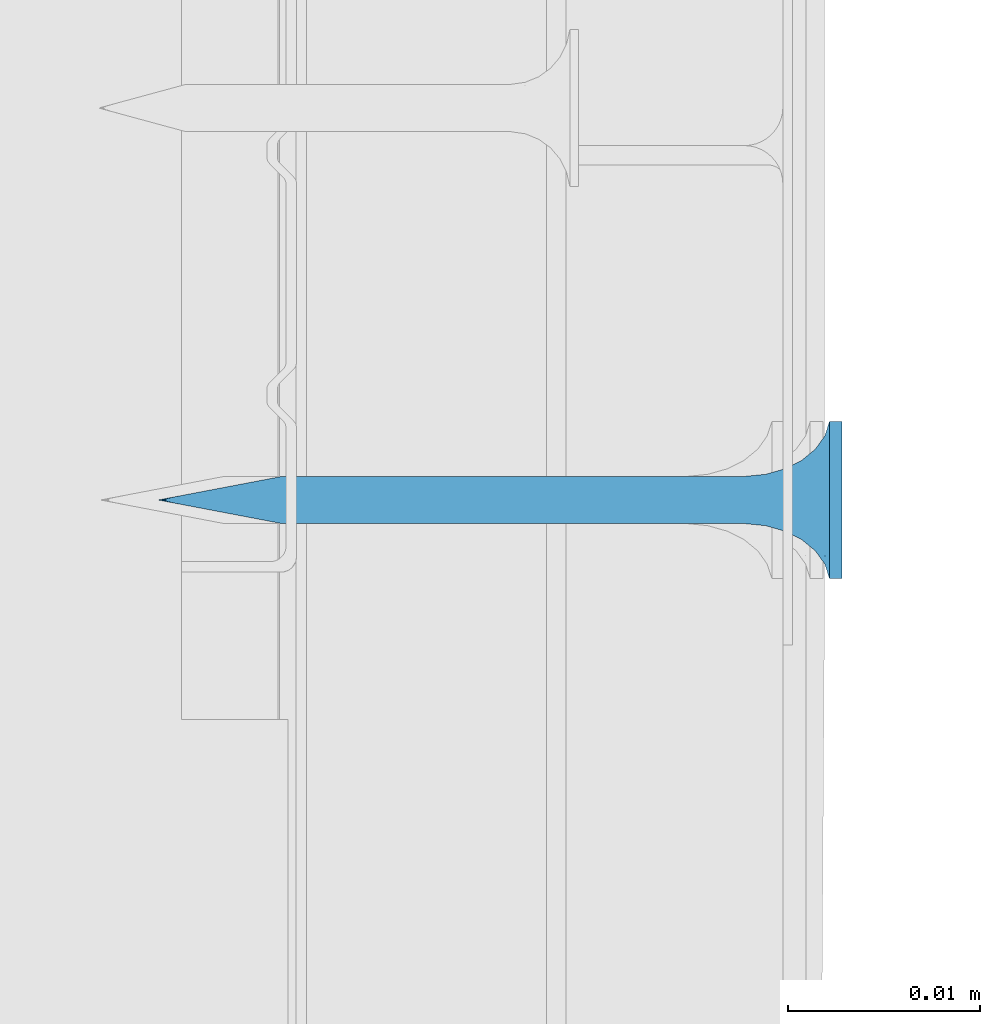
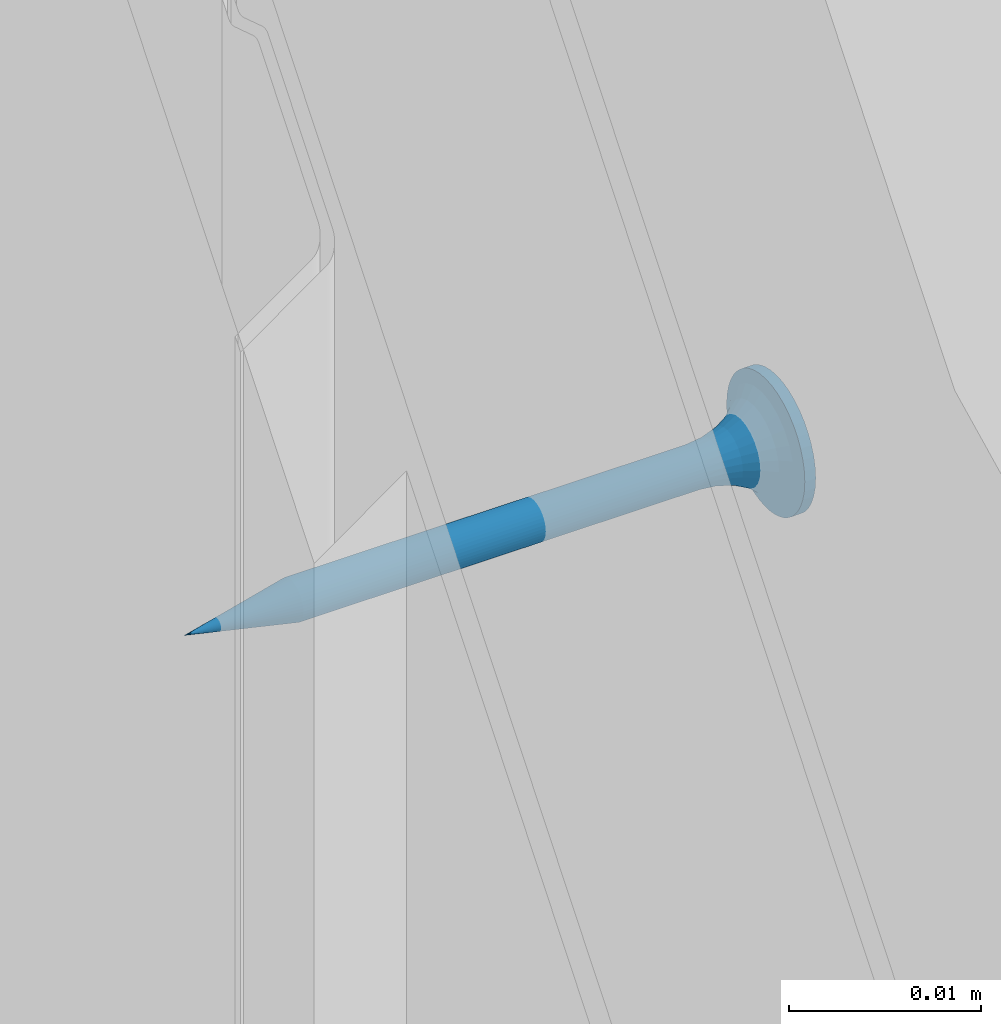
# One storey, part 51 of 89: 1 wall.
"""IFC2X3 building model written with IfcOpenShell, lengths in millimetres."""

from ifc_helpers import new_model, entity, si_unit, converted_unit, direction, frame, origin, origin_with_axes, place, context, project, spatial, faceted_brep, element, save


model = new_model("IFC2X3")

# Units and contexts
model_context = context("Model", 3, precision=1e-05, world=origin(), true_north=direction((0.0, 1.0, 0.0)))
ifc_project = project(units=[si_unit("LENGTHUNIT", "METRE", prefix="MILLI"), si_unit("AREAUNIT", "SQUARE_METRE"), si_unit("VOLUMEUNIT", "CUBIC_METRE"), converted_unit("PLANEANGLEUNIT", "DEGREE", entity("IfcPlaneAngleMeasure", 0.01745), si_unit("PLANEANGLEUNIT", "RADIAN"), dimensions=[0, 0, 0, 0, 0, 0, 0]), si_unit("SOLIDANGLEUNIT", "STERADIAN"), si_unit("MASSUNIT", "GRAM"), si_unit("TIMEUNIT", "SECOND"), si_unit("THERMODYNAMICTEMPERATUREUNIT", "DEGREE_CELSIUS"), si_unit("LUMINOUSINTENSITYUNIT", "LUMEN")], contexts=[model_context])

# Site, building, storey
site_placement = place(None, origin_with_axes())
site = spatial("IfcSite", under=ifc_project, at=site_placement, Name="Default Site", CompositionType="ELEMENT")
building_placement = place(site_placement, origin_with_axes())
building = spatial("IfcBuilding", under=site, at=building_placement, Name="Default Building", CompositionType="ELEMENT")
storey_placement = place(building_placement, origin_with_axes())
storey = spatial("IfcBuildingStorey", under=building, at=storey_placement, Name="Default Building Storey", CompositionType="ELEMENT", Elevation=0.0)

# Wall
wall_placement = place(storey_placement, frame((-1963.90239238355, 1534.934940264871, 176.8420414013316), z_axis=(0.0, 0.0, 1.0), x_axis=(3.748251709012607e-13, 1.0, 0.0)))
element("IfcWall", 1, at=wall_placement, inside=storey, Name="Wkręt RIGIPS TN 35", context=model_context, shape_type="Brep", body=[
    faceted_brep([(-138.5557071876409, -4828.206294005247, 555.2413100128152), (-138.5557071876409, -4804.093757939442, 555.2413100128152), (-138.6296059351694, -4804.093757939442, 555.4197173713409), (-138.6296059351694, -4828.206294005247, 555.4197173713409), (-138.329396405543, -4828.206294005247, 554.9298199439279), (-138.329396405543, -4804.093757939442, 554.9298199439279), (-138.4548091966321, -4804.093757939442, 555.0766594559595), (-138.4548091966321, -4828.206294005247, 555.0766594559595), (-137.0789337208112, -4828.206294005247, 556.9703895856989), (-137.0789337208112, -4804.093757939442, 556.9703895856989), (-136.9005263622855, -4804.093757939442, 556.8964908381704), (-136.9005263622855, -4828.206294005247, 556.8964908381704), (-138.6296059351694, -4804.093757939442, 556.1802826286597), (-138.6296059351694, -4828.206294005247, 556.1802826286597), (-138.6746858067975, -4828.206294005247, 555.9925114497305), (-138.6746858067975, -4804.093757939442, 555.9925114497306), (-138.0179063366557, -4828.206294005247, 554.7035091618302), (-138.0179063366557, -4804.093757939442, 554.7035091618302), (-138.1825568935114, -4804.093757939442, 554.8044071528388), (-138.1825568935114, -4828.206294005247, 554.8044071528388), (-137.83949897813, -4828.206294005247, 554.6296104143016), (-137.83949897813, -4804.093757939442, 554.6296104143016), (-137.4592163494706, -4804.093757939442, 554.5693795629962), (-137.4592163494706, -4828.206294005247, 554.5693795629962), (-137.2667048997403, -4828.206294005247, 554.5845305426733), (-137.2667048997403, -4804.093757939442, 554.5845305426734), (-136.9005263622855, -4804.093757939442, 554.7035091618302), (-136.9005263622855, -4828.206294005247, 554.7035091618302), (-136.7358758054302, -4828.206294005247, 554.8044071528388), (-136.7358758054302, -4804.093757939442, 554.8044071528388), (-138.0179063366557, -4828.206294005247, 556.8964908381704), (-138.0179063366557, -4804.093757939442, 556.8964908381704), (-137.83949897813, -4804.093757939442, 556.9703895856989), (-137.83949897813, -4828.206294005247, 556.9703895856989), (-136.3627255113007, -4828.206294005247, 556.3586899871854), (-136.3627255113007, -4804.093757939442, 556.3586899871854), (-136.2888267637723, -4804.093757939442, 556.1802826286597), (-136.2888267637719, -4828.206294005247, 556.1802826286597), (-138.329396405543, -4828.206294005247, 556.6701800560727), (-138.329396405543, -4804.093757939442, 556.6701800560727), (-138.1825568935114, -4804.093757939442, 556.7955928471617), (-138.1825568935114, -4828.206294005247, 556.7955928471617), (-138.6746858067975, -4804.093757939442, 555.60748855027), (-138.6746858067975, -4828.206294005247, 555.60748855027), (-137.2667048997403, -4828.206294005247, 557.0154694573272), (-137.2667048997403, -4804.093757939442, 557.0154694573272), (-136.2888267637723, -4804.093757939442, 555.4197173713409), (-136.2888267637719, -4828.206294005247, 555.4197173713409), (-136.2437468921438, -4828.206294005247, 555.60748855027), (-136.2437468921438, -4804.093757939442, 555.60748855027), (-136.5890362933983, -4828.206294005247, 554.9298199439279), (-136.5890362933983, -4804.093757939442, 554.9298199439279), (-137.651727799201, -4828.206294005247, 554.5845305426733), (-137.651727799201, -4804.093757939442, 554.5845305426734), (-136.4636235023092, -4828.206294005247, 555.0766594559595), (-136.4636235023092, -4804.093757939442, 555.0766594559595), (-136.7358758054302, -4804.093757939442, 556.7955928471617), (-136.7358758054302, -4828.206294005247, 556.7955928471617), (-136.3627255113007, -4804.093757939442, 555.2413100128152), (-136.3627255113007, -4828.206294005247, 555.2413100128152), (-136.2437468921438, -4828.206294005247, 555.9925114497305), (-136.2437468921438, -4804.093757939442, 555.9925114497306), (-136.2285959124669, -4804.093757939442, 555.8000000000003), (-136.2285959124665, -4828.206294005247, 555.8000000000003), (-138.6898367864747, -4828.206294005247, 555.8000000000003), (-138.6898367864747, -4804.093757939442, 555.8000000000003), (-136.5890362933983, -4828.206294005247, 556.6701800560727), (-136.5890362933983, -4804.093757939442, 556.6701800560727), (-136.4636235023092, -4804.093757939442, 556.5233405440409), (-136.4636235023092, -4828.206294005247, 556.5233405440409), (-137.0789337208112, -4804.093757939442, 554.6296104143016), (-137.0789337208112, -4828.206294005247, 554.6296104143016), (-137.4592163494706, -4804.093757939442, 557.0306204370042), (-137.4592163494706, -4828.206294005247, 557.0306204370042), (-137.651727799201, -4828.206294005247, 557.0154694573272), (-137.651727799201, -4804.093757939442, 557.0154694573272), (-138.5557071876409, -4804.093757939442, 556.3586899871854), (-138.5557071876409, -4828.206294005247, 556.3586899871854), (-138.4548091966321, -4828.206294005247, 556.5233405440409), (-138.4548091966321, -4804.093757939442, 556.5233405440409), (-141.5377463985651, -4832.598051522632, 555.8000000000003), (-141.5377463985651, -4833.259713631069, 555.8000000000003), (-141.4875329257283, -4833.259713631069, 555.1619773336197), (-141.4875329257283, -4832.598051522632, 555.1619773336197), (-141.3381289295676, -4833.259713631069, 554.5396649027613), (-141.3381289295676, -4832.598051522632, 554.5396649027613), (-141.0932132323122, -4833.259713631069, 553.9483861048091), (-141.0932132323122, -4832.598051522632, 553.9483861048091), (-140.7588164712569, -4833.259713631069, 553.4027001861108), (-140.7588164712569, -4832.598051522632, 553.4027001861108), (-140.3431726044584, -4833.259713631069, 552.9160437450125), (-140.4541727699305, -4832.598051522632, 553.0314907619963), (-140.1080097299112, -4832.598051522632, 552.6986614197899), (-139.8565161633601, -4833.259713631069, 552.500399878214), (-139.7251262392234, -4832.598051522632, 552.4088262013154), (-139.3108302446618, -4833.259713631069, 552.1660031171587), (-139.3108302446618, -4832.598051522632, 552.1660031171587), (-138.8708651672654, -4832.598051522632, 551.9735584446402), (-138.7195514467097, -4833.259713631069, 551.9210874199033), (-138.4113302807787, -4832.598051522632, 551.8341600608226), (-137.9385961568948, -4832.598051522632, 551.7497404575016), (-138.0972390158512, -4833.259713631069, 551.7716834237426), (-137.4592163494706, -4833.259713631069, 551.7214699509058), (-137.4592163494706, -4832.598051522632, 551.7214699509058), (-136.8211936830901, -4833.259713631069, 551.7716834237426), (-136.8211936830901, -4832.598051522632, 551.7716834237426), (-136.1988812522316, -4833.259713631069, 551.9210874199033), (-136.1988812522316, -4832.598051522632, 551.9210874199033), (-135.6076024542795, -4833.259713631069, 552.1660031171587), (-135.6076024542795, -4832.598051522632, 552.1660031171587), (-135.0619165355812, -4833.259713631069, 552.500399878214), (-135.0619165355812, -4832.598051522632, 552.500399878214), (-134.5752600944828, -4833.259713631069, 552.9160437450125), (-134.5752600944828, -4832.598051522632, 552.9160437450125), (-134.1596162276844, -4833.259713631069, 553.4027001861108), (-134.1596162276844, -4832.598051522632, 553.4027001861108), (-133.8252194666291, -4833.259713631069, 553.9483861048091), (-133.8252194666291, -4832.598051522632, 553.9483861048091), (-133.5803037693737, -4833.259713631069, 554.5396649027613), (-133.5803037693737, -4832.598051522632, 554.5396649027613), (-133.430899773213, -4833.259713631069, 556.4380226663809), (-133.430899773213, -4832.598051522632, 556.4380226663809), (-133.3806863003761, -4832.598051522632, 555.8000000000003), (-133.3806863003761, -4833.259713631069, 555.8000000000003), (-133.430899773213, -4832.598051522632, 555.1619773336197), (-133.430899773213, -4833.259713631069, 555.1619773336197), (-133.5803037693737, -4833.259713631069, 557.0603350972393), (-133.5803037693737, -4832.598051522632, 557.0603350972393), (-133.8252194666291, -4833.259713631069, 557.6516138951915), (-133.8252194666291, -4832.598051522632, 557.6516138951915), (-134.1596162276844, -4833.259713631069, 558.1972998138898), (-134.1596162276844, -4832.598051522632, 558.1972998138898), (-134.5752600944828, -4833.259713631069, 558.6839562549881), (-134.5752600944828, -4832.598051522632, 558.6839562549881), (-135.0619165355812, -4833.259713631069, 559.0996001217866), (-135.0619165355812, -4832.598051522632, 559.0996001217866), (-135.6076024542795, -4833.259713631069, 559.4339968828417), (-135.6076024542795, -4832.598051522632, 559.4339968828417), (-136.1988812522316, -4833.259713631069, 559.6789125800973), (-136.1988812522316, -4832.598051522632, 559.6789125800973), (-136.8211936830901, -4833.259713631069, 559.8283165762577), (-136.8211936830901, -4832.598051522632, 559.8283165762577), (-137.4592163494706, -4833.259713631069, 559.8785300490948), (-137.4592163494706, -4832.598051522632, 559.8785300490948), (-138.0972390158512, -4833.259713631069, 559.8283165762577), (-138.0972390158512, -4832.598051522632, 559.8283165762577), (-138.7195514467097, -4833.259713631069, 559.6789125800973), (-138.7195514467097, -4832.598051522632, 559.6789125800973), (-139.3108302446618, -4833.259713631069, 559.4339968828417), (-139.3108302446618, -4832.598051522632, 559.4339968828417), (-139.8565161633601, -4833.259713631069, 559.0996001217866), (-139.8565161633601, -4832.598051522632, 559.0996001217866), (-140.3431726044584, -4833.259713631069, 558.6839562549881), (-140.3431726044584, -4832.598051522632, 558.6839562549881), (-140.7588164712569, -4833.259713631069, 558.1972998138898), (-140.7588164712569, -4832.598051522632, 558.1972998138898), (-141.0932132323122, -4833.259713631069, 557.6516138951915), (-141.0932132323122, -4832.598051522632, 557.6516138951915), (-141.3381289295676, -4833.259713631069, 557.0603350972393), (-141.3381289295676, -4832.598051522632, 557.0603350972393), (-141.4875329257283, -4833.259713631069, 556.4380226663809), (-141.4875329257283, -4832.598051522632, 556.4380226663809), (-137.8060615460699, -4829.281368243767, 554.5055560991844), (-137.4592163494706, -4829.281368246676, 554.4598930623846), (-138.1292698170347, -4829.281368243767, 554.6394333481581), (-138.4068150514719, -4829.281368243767, 554.8524012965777), (-138.6197830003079, -4829.281368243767, 555.1299465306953), (-138.7536602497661, -4829.281368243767, 555.4531548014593), (-138.7993232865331, -4829.281368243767, 555.7999999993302), (-138.753660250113, -4829.281368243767, 556.1468451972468), (-138.6197830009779, -4829.281368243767, 556.4700534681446), (-138.4068150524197, -4829.281368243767, 556.7475987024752), (-138.1292698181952, -4829.281368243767, 556.9605666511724), (-137.8060615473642, -4829.281368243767, 557.0944439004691), (-137.4592163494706, -4829.281368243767, 557.1401069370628), (-137.112371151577, -4829.281368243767, 557.0944439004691), (-136.7891628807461, -4829.281368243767, 556.9605666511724), (-136.5116176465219, -4829.281368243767, 556.7475987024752), (-136.2986496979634, -4829.281368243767, 556.4700534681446), (-136.1647724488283, -4829.281368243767, 556.1468451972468), (-136.1191094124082, -4829.281368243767, 555.7999999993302), (-136.1647724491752, -4829.281368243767, 555.4531548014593), (-136.2986496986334, -4829.281368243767, 555.1299465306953), (-136.5116176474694, -4829.281368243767, 554.8524012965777), (-136.7891628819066, -4829.281368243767, 554.6394333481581), (-137.1123711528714, -4829.281368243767, 554.5055560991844), (-137.4592163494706, -4830.288222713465, 554.1737111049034), (-137.8801308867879, -4830.288222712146, 554.229125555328), (-138.2723607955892, -4830.288222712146, 554.3915925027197), (-138.6091762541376, -4830.288222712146, 554.6500400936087), (-138.8676238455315, -4830.288222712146, 554.9868555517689), (-139.0300907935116, -4830.288222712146, 555.3790854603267), (-139.0855052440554, -4830.288222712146, 555.7999999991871), (-139.0300907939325, -4830.288222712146, 556.220914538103), (-138.8676238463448, -4830.288222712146, 556.6131444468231), (-138.6091762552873, -4830.288222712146, 556.9499599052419), (-138.2723607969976, -4830.288222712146, 557.2084074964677), (-137.8801308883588, -4830.288222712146, 557.3708744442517), (-137.4592163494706, -4830.288222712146, 557.426288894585), (-137.0383018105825, -4830.288222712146, 557.3708744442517), (-136.6460719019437, -4830.288222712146, 557.2084074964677), (-136.309256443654, -4830.288222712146, 556.9499599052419), (-136.0508088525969, -4830.288222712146, 556.6131444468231), (-135.8883419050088, -4830.288222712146, 556.220914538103), (-135.8329274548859, -4830.288222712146, 555.7999999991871), (-135.8883419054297, -4830.288222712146, 555.3790854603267), (-136.0508088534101, -4830.288222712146, 554.9868555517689), (-136.309256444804, -4830.288222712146, 554.6500400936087), (-136.6460719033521, -4830.288222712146, 554.3915925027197), (-137.0383018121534, -4830.288222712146, 554.229125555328), (-137.4592163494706, -4831.168773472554, 553.7273431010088), (-137.9956594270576, -4831.168773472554, 553.7979671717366), (-138.4955447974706, -4831.168773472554, 554.0050264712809), (-138.9248060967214, -4831.168773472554, 554.3344102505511), (-139.2541898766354, -4831.168773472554, 554.763671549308), (-139.4612491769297, -4831.168773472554, 555.2635569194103), (-139.5318732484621, -4831.168773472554, 555.799999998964), (-139.461249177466, -4831.168773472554, 556.3364430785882), (-139.2541898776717, -4831.168773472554, 556.8363284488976), (-138.9248060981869, -4831.168773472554, 557.2655897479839), (-138.4955447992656, -4831.168773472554, 557.594973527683), (-137.9956594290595, -4831.168773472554, 557.8020328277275), (-137.4592163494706, -4831.168773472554, 557.8726568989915), (-136.9227732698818, -4831.168773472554, 557.8020328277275), (-136.4228878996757, -4831.168773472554, 557.594973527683), (-135.9936266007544, -4831.168773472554, 557.2655897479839), (-135.6642428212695, -4831.168773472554, 556.8363284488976), (-135.4571835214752, -4831.168773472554, 556.3364430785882), (-135.3865594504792, -4831.168773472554, 555.799999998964), (-135.4571835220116, -4831.168773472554, 555.2635569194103), (-135.6642428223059, -4831.168773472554, 554.763671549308), (-135.9936266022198, -4831.168773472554, 554.3344102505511), (-136.4228879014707, -4831.168773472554, 554.0050264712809), (-136.9227732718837, -4831.168773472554, 553.7979671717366), (-137.4592163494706, -4831.872222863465, 553.1465393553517), (-138.1459824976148, -4831.872222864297, 553.2369538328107), (-138.7859466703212, -4831.872222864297, 553.5020356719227), (-139.3354963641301, -4831.872222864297, 553.9237199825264), (-139.7571806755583, -4831.872222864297, 554.4732696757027), (-140.02226251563, -4831.872222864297, 555.1132338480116), (-140.1126769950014, -4831.872222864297, 555.7999999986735), (-140.0222625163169, -4831.872222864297, 556.4867661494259), (-139.7571806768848, -4831.872222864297, 557.1267303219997), (-139.3354963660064, -4831.872222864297, 557.6762800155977), (-138.785946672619, -4831.872222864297, 558.097964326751), (-138.1459825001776, -4831.872222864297, 558.363046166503), (-137.4592163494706, -4831.872222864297, 558.4534606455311), (-136.7724501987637, -4831.872222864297, 558.363046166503), (-136.1324860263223, -4831.872222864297, 558.097964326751), (-135.5829363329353, -4831.872222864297, 557.6762800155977), (-135.1612520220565, -4831.872222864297, 557.1267303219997), (-134.8961701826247, -4831.872222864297, 556.4867661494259), (-134.8057557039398, -4831.872222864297, 555.7999999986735), (-134.8961701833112, -4831.872222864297, 555.1132338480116), (-135.161252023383, -4831.872222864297, 554.4732696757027), (-135.5829363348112, -4831.872222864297, 553.9237199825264), (-136.1324860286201, -4831.872222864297, 553.5020356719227), (-136.7724502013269, -4831.872222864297, 553.2369538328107), (-137.4592163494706, -4832.357989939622, 552.4648055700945), (-138.3224281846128, -4832.357989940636, 552.578449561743), (-139.1268135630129, -4832.357989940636, 552.9116368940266), (-139.8175549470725, -4832.357989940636, 553.4416613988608), (-140.3475794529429, -4832.357989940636, 554.1324027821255), (-140.6807667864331, -4832.357989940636, 554.936788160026), (-140.7944107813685, -4832.357989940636, 555.7999999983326), (-140.6807667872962, -4832.357989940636, 556.663211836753), (-140.3475794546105, -4832.357989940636, 557.4675972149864), (-139.817554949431, -4832.357989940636, 558.1583385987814), (-139.1268135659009, -4832.357989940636, 558.6883631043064), (-138.3224281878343, -4832.357989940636, 559.0215504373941), (-137.4592163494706, -4832.357989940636, 559.1351944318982), (-136.5960045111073, -4832.357989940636, 559.0215504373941), (-135.7916191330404, -4832.357989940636, 558.6883631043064), (-135.1008777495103, -4832.357989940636, 558.1583385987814), (-134.5708532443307, -4832.357989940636, 557.4675972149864), (-134.2376659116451, -4832.357989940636, 556.663211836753), (-134.1240219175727, -4832.357989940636, 555.7999999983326), (-134.2376659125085, -4832.357989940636, 554.936788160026), (-134.5708532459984, -4832.357989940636, 554.1324027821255), (-135.1008777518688, -4832.357989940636, 553.4416613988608), (-135.7916191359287, -4832.357989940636, 552.9116368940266), (-136.5960045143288, -4832.357989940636, 552.578449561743), (-137.4592163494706, -4797.627063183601, 555.8000000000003), (-139.9592163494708, -4833.259713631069, 556.3000000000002), (-137.9592163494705, -4833.259713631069, 556.3000000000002), (-139.9592163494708, -4833.259713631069, 555.3000000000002), (-137.9592163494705, -4833.259713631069, 555.3000000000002), (-137.9592163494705, -4833.259713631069, 553.3000000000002), (-136.9592163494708, -4833.259713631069, 553.3000000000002), (-136.9592163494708, -4833.259713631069, 555.3000000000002), (-134.9592163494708, -4833.259713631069, 555.3000000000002), (-134.9592163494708, -4833.259713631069, 556.3000000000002), (-136.9592163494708, -4833.259713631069, 556.3000000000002), (-136.9592163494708, -4833.259713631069, 558.3000000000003), (-137.9592163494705, -4833.259713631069, 558.3000000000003), (-136.9592163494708, -4831.988379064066, 556.3000000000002), (-134.9592163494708, -4831.988379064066, 556.3000000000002), (-134.9592163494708, -4831.988379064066, 555.3000000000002), (-136.9592163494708, -4831.988379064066, 555.3000000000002), (-136.9592163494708, -4831.988379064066, 553.3000000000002), (-137.9592163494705, -4831.988379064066, 553.3000000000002), (-137.9592163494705, -4831.988379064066, 555.3000000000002), (-139.9592163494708, -4831.988379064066, 555.3000000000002), (-139.9592163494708, -4831.988379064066, 556.3000000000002), (-137.9592163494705, -4831.988379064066, 556.3000000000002), (-137.9592163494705, -4831.988379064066, 558.3000000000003), (-136.9592163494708, -4831.988379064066, 558.3000000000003)], [[[0, 1, 2, 3]], [[4, 5, 6, 7]], [[8, 9, 10, 11]], [[12, 13, 14, 15]], [[1, 0, 7, 6]], [[16, 17, 18, 19]], [[20, 21, 17, 16]], [[22, 23, 24, 25]], [[26, 27, 28, 29]], [[30, 31, 32, 33]], [[34, 35, 36, 37]], [[38, 39, 40, 41]], [[3, 2, 42, 43]], [[9, 8, 44, 45]], [[46, 47, 48, 49]], [[50, 51, 29, 28]], [[5, 4, 19, 18]], [[21, 20, 52, 53]], [[23, 22, 53, 52]], [[51, 50, 54, 55]], [[11, 10, 56, 57]], [[47, 46, 58, 59]], [[60, 61, 62, 63]], [[64, 65, 15, 14]], [[37, 36, 61, 60]], [[66, 67, 68, 69]], [[27, 26, 70, 71]], [[71, 70, 25, 24]], [[59, 58, 55, 54]], [[63, 62, 49, 48]], [[35, 34, 69, 68]], [[67, 66, 57, 56]], [[72, 73, 74, 75]], [[13, 12, 76, 77]], [[73, 72, 45, 44]], [[39, 38, 78, 79]], [[33, 32, 75, 74]], [[77, 76, 79, 78]], [[31, 30, 41, 40]], [[65, 64, 43, 42]], [[80, 81, 82, 83]], [[84, 85, 83, 82]], [[86, 87, 85, 84]], [[87, 86, 88, 89]], [[88, 90, 89]], [[90, 91, 89]], [[92, 91, 93]], [[91, 90, 93]], [[93, 94, 92]], [[93, 95, 94]], [[95, 96, 94]], [[97, 96, 98]], [[96, 95, 98]], [[98, 99, 97]], [[100, 99, 101]], [[99, 98, 101]], [[101, 102, 100]], [[102, 103, 100]], [[103, 102, 104, 105]], [[106, 107, 105, 104]], [[108, 109, 107, 106]], [[109, 108, 110, 111]], [[112, 113, 111, 110]], [[113, 112, 114, 115]], [[116, 117, 115, 114]], [[118, 119, 117, 116]], [[120, 121, 122, 123]], [[123, 122, 124, 125]], [[119, 118, 125, 124]], [[126, 127, 121, 120]], [[128, 129, 127, 126]], [[129, 128, 130, 131]], [[132, 133, 131, 130]], [[133, 132, 134, 135]], [[136, 137, 135, 134]], [[138, 139, 137, 136]], [[139, 138, 140, 141]], [[142, 143, 141, 140]], [[143, 142, 144, 145]], [[146, 147, 145, 144]], [[148, 149, 147, 146]], [[149, 148, 150, 151]], [[152, 153, 151, 150]], [[153, 152, 154, 155]], [[156, 157, 155, 154]], [[158, 159, 157, 156]], [[159, 158, 160, 161]], [[81, 80, 161, 160]], [[162, 23, 52]], [[162, 163, 23]], [[52, 20, 162]], [[162, 20, 164]], [[16, 164, 20]], [[164, 16, 19]], [[19, 165, 164]], [[19, 4, 165]], [[166, 4, 7]], [[166, 165, 4]], [[7, 0, 166]], [[166, 0, 167]], [[3, 167, 0]], [[167, 3, 43]], [[43, 168, 167]], [[43, 64, 168]], [[169, 64, 14]], [[169, 168, 64]], [[14, 13, 169]], [[169, 13, 170]], [[77, 170, 13]], [[170, 77, 78]], [[78, 171, 170]], [[78, 38, 171]], [[172, 38, 41]], [[172, 171, 38]], [[41, 30, 172]], [[172, 30, 173]], [[33, 173, 30]], [[173, 33, 74]], [[74, 174, 173]], [[74, 73, 174]], [[175, 73, 44]], [[175, 174, 73]], [[44, 8, 175]], [[175, 8, 176]], [[11, 176, 8]], [[176, 11, 57]], [[57, 177, 176]], [[57, 66, 177]], [[178, 66, 69]], [[178, 177, 66]], [[69, 34, 178]], [[178, 34, 179]], [[37, 179, 34]], [[179, 37, 60]], [[60, 180, 179]], [[60, 63, 180]], [[181, 63, 48]], [[181, 180, 63]], [[48, 47, 181]], [[181, 47, 182]], [[59, 182, 47]], [[182, 59, 54]], [[54, 183, 182]], [[54, 50, 183]], [[184, 50, 28]], [[184, 183, 50]], [[28, 27, 184]], [[184, 27, 185]], [[71, 185, 27]], [[185, 71, 24]], [[24, 163, 185]], [[24, 23, 163]], [[186, 163, 187]], [[162, 187, 163]], [[164, 188, 187, 162]], [[165, 189, 188, 164]], [[166, 190, 189, 165]], [[167, 191, 190, 166]], [[168, 192, 191, 167]], [[169, 193, 192, 168]], [[170, 194, 193, 169]], [[171, 195, 194, 170]], [[172, 196, 195, 171]], [[173, 197, 196, 172]], [[174, 198, 197, 173]], [[175, 199, 198, 174]], [[176, 200, 199, 175]], [[177, 201, 200, 176]], [[178, 202, 201, 177]], [[179, 203, 202, 178]], [[180, 204, 203, 179]], [[181, 205, 204, 180]], [[182, 206, 205, 181]], [[183, 207, 206, 182]], [[184, 208, 207, 183]], [[185, 209, 208, 184]], [[185, 163, 209]], [[186, 209, 163]], [[210, 186, 211]], [[187, 211, 186]], [[188, 212, 211, 187]], [[189, 213, 212, 188]], [[190, 214, 213, 189]], [[191, 215, 214, 190]], [[192, 216, 215, 191]], [[193, 217, 216, 192]], [[194, 218, 217, 193]], [[195, 219, 218, 194]], [[196, 220, 219, 195]], [[197, 221, 220, 196]], [[198, 222, 221, 197]], [[199, 223, 222, 198]], [[200, 224, 223, 199]], [[201, 225, 224, 200]], [[202, 226, 225, 201]], [[203, 227, 226, 202]], [[204, 228, 227, 203]], [[205, 229, 228, 204]], [[206, 230, 229, 205]], [[207, 231, 230, 206]], [[208, 232, 231, 207]], [[209, 233, 232, 208]], [[209, 186, 233]], [[210, 233, 186]], [[234, 210, 235]], [[211, 235, 210]], [[212, 236, 235, 211]], [[213, 237, 236, 212]], [[214, 238, 237, 213]], [[215, 239, 238, 214]], [[216, 240, 239, 215]], [[217, 241, 240, 216]], [[218, 242, 241, 217]], [[219, 243, 242, 218]], [[220, 244, 243, 219]], [[221, 245, 244, 220]], [[222, 246, 245, 221]], [[223, 247, 246, 222]], [[224, 248, 247, 223]], [[225, 249, 248, 224]], [[226, 250, 249, 225]], [[227, 251, 250, 226]], [[228, 252, 251, 227]], [[229, 253, 252, 228]], [[230, 254, 253, 229]], [[231, 255, 254, 230]], [[232, 256, 255, 231]], [[233, 257, 256, 232]], [[233, 210, 257]], [[234, 257, 210]], [[258, 99, 100]], [[258, 259, 99]], [[100, 103, 258]], [[258, 234, 259]], [[235, 259, 234]], [[259, 96, 97]], [[259, 260, 96]], [[97, 99, 259]], [[236, 260, 259, 235]], [[261, 91, 92]], [[260, 92, 94]], [[260, 261, 92]], [[94, 96, 260]], [[237, 261, 260, 236]], [[262, 87, 89]], [[89, 261, 262]], [[89, 91, 261]], [[238, 262, 261, 237]], [[85, 87, 263]], [[262, 263, 87]], [[239, 263, 262, 238]], [[263, 80, 83]], [[263, 264, 80]], [[83, 85, 263]], [[240, 264, 263, 239]], [[265, 159, 161]], [[161, 264, 265]], [[161, 80, 264]], [[241, 265, 264, 240]], [[265, 266, 157, 159]], [[242, 266, 265, 241]], [[266, 153, 155]], [[266, 267, 153]], [[155, 157, 266]], [[243, 267, 266, 242]], [[268, 149, 151]], [[151, 267, 268]], [[151, 153, 267]], [[244, 268, 267, 243]], [[268, 269, 147, 149]], [[245, 269, 268, 244]], [[269, 143, 145]], [[269, 270, 143]], [[145, 147, 269]], [[246, 270, 269, 245]], [[271, 139, 141]], [[141, 270, 271]], [[141, 143, 270]], [[247, 271, 270, 246]], [[271, 272, 137, 139]], [[248, 272, 271, 247]], [[272, 133, 135]], [[272, 273, 133]], [[135, 137, 272]], [[249, 273, 272, 248]], [[274, 129, 131]], [[131, 273, 274]], [[131, 133, 273]], [[250, 274, 273, 249]], [[274, 275, 127, 129]], [[251, 275, 274, 250]], [[275, 122, 121]], [[275, 276, 122]], [[121, 127, 275]], [[252, 276, 275, 251]], [[277, 119, 124]], [[124, 276, 277]], [[124, 122, 276]], [[253, 277, 276, 252]], [[117, 119, 278]], [[277, 278, 119]], [[254, 278, 277, 253]], [[278, 113, 115]], [[278, 279, 113]], [[115, 117, 278]], [[255, 279, 278, 254]], [[280, 109, 111]], [[111, 279, 280]], [[111, 113, 279]], [[256, 280, 279, 255]], [[107, 109, 281]], [[280, 281, 109]], [[257, 281, 280, 256]], [[257, 234, 281]], [[258, 281, 234]], [[281, 103, 105]], [[281, 258, 103]], [[105, 107, 281]], [[42, 2, 282]], [[282, 65, 42]], [[2, 1, 282]], [[6, 5, 282]], [[282, 1, 6]], [[18, 17, 282]], [[282, 5, 18]], [[17, 21, 282]], [[53, 22, 282]], [[282, 21, 53]], [[25, 70, 282]], [[282, 22, 25]], [[70, 26, 282]], [[29, 51, 282]], [[282, 26, 29]], [[55, 58, 282]], [[282, 51, 55]], [[58, 46, 282]], [[49, 62, 282]], [[282, 46, 49]], [[61, 36, 282]], [[282, 62, 61]], [[36, 35, 282]], [[68, 67, 282]], [[282, 35, 68]], [[56, 10, 282]], [[282, 67, 56]], [[10, 9, 282]], [[45, 72, 282]], [[282, 9, 45]], [[75, 32, 282]], [[282, 72, 75]], [[32, 31, 282]], [[40, 39, 282]], [[282, 31, 40]], [[79, 76, 282]], [[282, 39, 79]], [[76, 12, 282]], [[15, 65, 282]], [[282, 12, 15]], [[283, 156, 154, 284]], [[283, 285, 286, 287, 288, 289, 290, 291, 292, 293, 294, 284, 154, 152, 150, 148, 146, 144, 142, 140, 138, 136, 134, 132, 130, 128, 126, 120, 123, 125, 118, 116, 114, 112, 110, 108, 106, 104, 102, 101, 98, 95, 93, 90, 88, 86, 84, 82, 81, 160, 158, 156]], [[295, 296, 297, 298, 299, 300, 301, 302, 303, 304, 305, 306]], [[297, 290, 289, 298]], [[296, 291, 290, 297]], [[295, 292, 291, 296]], [[306, 293, 292, 295]], [[305, 294, 293, 306]], [[304, 284, 294, 305]], [[303, 283, 284, 304]], [[302, 285, 283, 303]], [[301, 286, 285, 302]], [[300, 287, 286, 301]], [[299, 288, 287, 300]], [[298, 289, 288, 299]]]),
])

save(model, "model.ifc")
